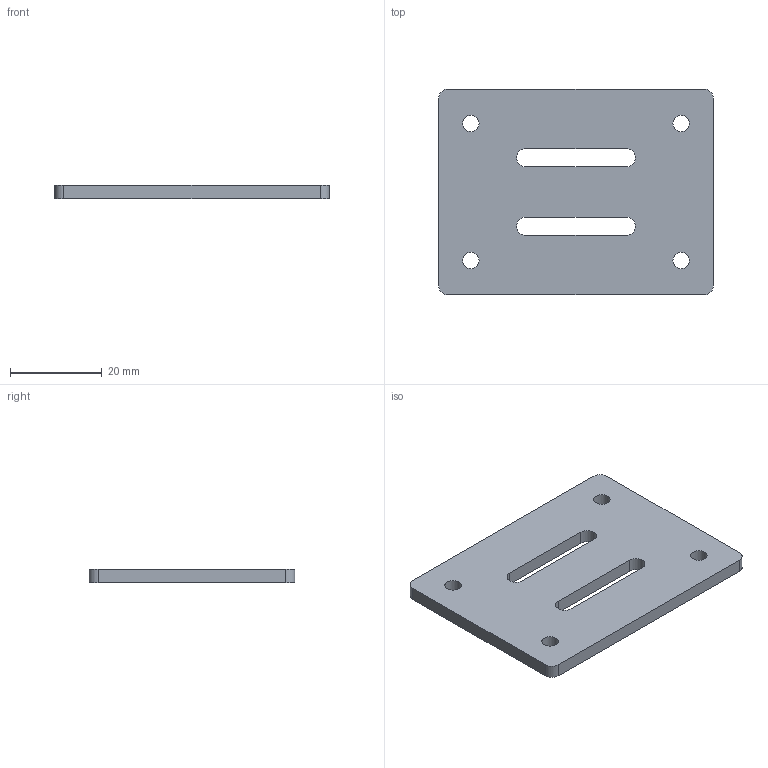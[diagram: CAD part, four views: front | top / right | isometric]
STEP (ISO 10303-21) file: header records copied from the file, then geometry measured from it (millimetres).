
FILE_DESCRIPTION(('Open CASCADE Model'),'2;1');
FILE_NAME('Open CASCADE Shape Model','2026-09-20T03:57:46',('Author'),( 'Open CASCADE'),'Open CASCADE STEP processor 7.9','Open CASCADE 7.9' ,'Unknown');
FILE_SCHEMA(('AUTOMOTIVE_DESIGN { 1 0 10303 214 1 1 1 1 }'));
Length unit declared in the file: millimetre
Products named in the file (1): Open CASCADE STEP translator 7.9 3
Bounding box: 60 x 45 x 3 mm (x, y, z)
Volume: 7364.2 mm3; surface area: 6004.3 mm2
Topology: 1 solids, 1 shells, 22 faces, 60 edges, 40 vertices
Faces by surface type: cylinder 12, plane 10
Full cylindrical faces by diameter (mm): 3.6 x4
Entity records: 1562 total; most frequent: CARTESIAN_POINT 347, DIRECTION 226, LINE 124, VECTOR 124, ORIENTED_EDGE 120, PCURVE 120, DEFINITIONAL_REPRESENTATION 120, EDGE_CURVE 60
